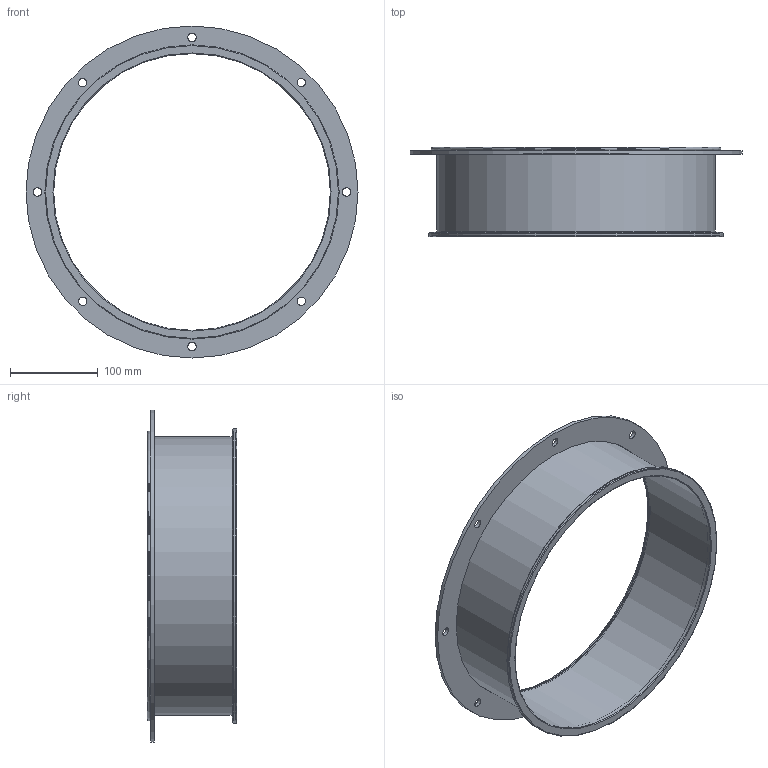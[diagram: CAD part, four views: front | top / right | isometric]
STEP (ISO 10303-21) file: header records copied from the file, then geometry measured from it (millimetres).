
FILE_DESCRIPTION(/* description */ (''),/* implementation_level */ '2;1');
FILE_NAME(/* name */ 'METU_EA106-41B_315_L100.stp',/* time_stamp */ '2018-10-10T11:42:26+02:00',/* author */ (''),/* organization */ (''),/* preprocessor_version */ 'ST-DEVELOPER v11',/* originating_system */ 'SIEMENS UGS NX 6.0',/* authorisation */ '');
FILE_SCHEMA (('CONFIG_CONTROL_DESIGN'));
Length unit declared in the file: millimetre
Products named in the file (1): garsCF17ddtg
Bounding box: 378 x 101.5 x 378 mm (x, y, z)
Volume: 275677.2 mm3; surface area: 331876.2 mm2
Topology: 3 solids, 3 shells, 32 faces, 76 edges, 53 vertices
Faces by surface type: cylinder 17, plane 9, torus 5, cone 1
Full cylindrical faces by diameter (mm): 9.5 x8, 315 x2, 316.6 x2, 318 x1, 326.6 x2, 335 x1, 378 x1
Entity records: 850 total; most frequent: DIRECTION 146, CARTESIAN_POINT 113, FACE_BOUND 80, EDGE_LOOP 80, ORIENTED_EDGE 80, AXIS2_PLACEMENT_3D 73, VERTEX_POINT 40, EDGE_CURVE 40
